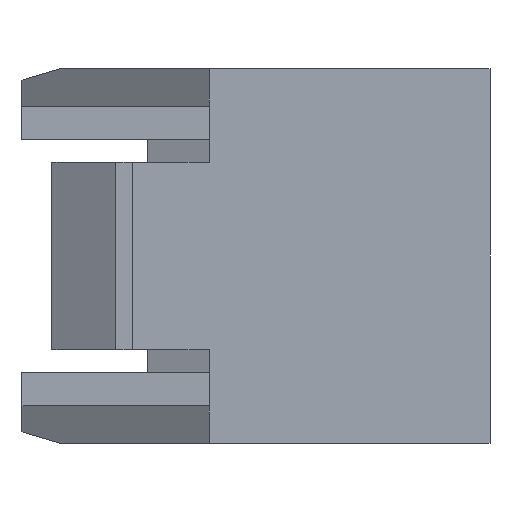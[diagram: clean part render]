
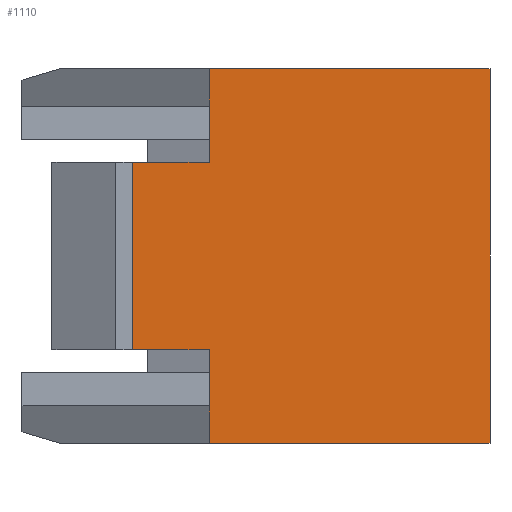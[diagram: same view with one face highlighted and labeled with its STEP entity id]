
A CAD part, front view. The second image highlights one B-rep face of the part: STEP entity #1110.
In plain terms, the highlighted planar face has unit normal (0, -1, 0).
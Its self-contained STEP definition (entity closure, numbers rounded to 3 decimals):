
#73 = PLANE('',#74);
#74 = AXIS2_PLACEMENT_3D('',#75,#76,#77);
#75 = CARTESIAN_POINT('',(0.,0.,10.));
#76 = DIRECTION('',(0.,0.,1.));
#77 = DIRECTION('',(1.,0.,-0.));
#105 = PLANE('',#106);
#106 = AXIS2_PLACEMENT_3D('',#107,#108,#109);
#107 = CARTESIAN_POINT('',(0.,0.,-10.));
#108 = DIRECTION('',(1.,0.,0.));
#109 = DIRECTION('',(-0.,1.,0.));
#132 = PLANE('',#133);
#133 = AXIS2_PLACEMENT_3D('',#134,#135,#136);
#134 = CARTESIAN_POINT('',(0.,20.719,0.));
#135 = DIRECTION('',(0.,0.,1.));
#136 = DIRECTION('',(0.,-1.,0.));
#206 = VERTEX_POINT('',#207);
#207 = CARTESIAN_POINT('',(-7.5,-0.05,0.));
#221 = PLANE('',#222);
#222 = AXIS2_PLACEMENT_3D('',#223,#224,#225);
#223 = CARTESIAN_POINT('',(-7.5,0.,0.));
#224 = DIRECTION('',(-1.,0.,0.));
#225 = DIRECTION('',(0.,1.,0.));
#233 = EDGE_CURVE('',#206,#234,#236,.T.);
#234 = VERTEX_POINT('',#235);
#235 = CARTESIAN_POINT('',(0.,-0.05,0.));
#236 = SURFACE_CURVE('',#237,(#241,#248),.PCURVE_S1.);
#237 = LINE('',#238,#239);
#238 = CARTESIAN_POINT('',(-7.5,-0.05,0.));
#239 = VECTOR('',#240,1.);
#240 = DIRECTION('',(1.,0.,0.));
#241 = PCURVE('',#132,#242);
#242 = DEFINITIONAL_REPRESENTATION('',(#243),#247);
#243 = LINE('',#244,#245);
#244 = CARTESIAN_POINT('',(20.769,-7.5));
#245 = VECTOR('',#246,1.);
#246 = DIRECTION('',(0.,1.));
#247 = ( GEOMETRIC_REPRESENTATION_CONTEXT(2) 
PARAMETRIC_REPRESENTATION_CONTEXT() REPRESENTATION_CONTEXT('2D SPACE',''
  ) );
#248 = PCURVE('',#249,#254);
#249 = PLANE('',#250);
#250 = AXIS2_PLACEMENT_3D('',#251,#252,#253);
#251 = CARTESIAN_POINT('',(-9.6,-0.05,-10.));
#252 = DIRECTION('',(0.,-1.,0.));
#253 = DIRECTION('',(1.,0.,0.));
#254 = DEFINITIONAL_REPRESENTATION('',(#255),#259);
#255 = LINE('',#256,#257);
#256 = CARTESIAN_POINT('',(2.1,10.));
#257 = VECTOR('',#258,1.);
#258 = DIRECTION('',(1.,0.));
#259 = ( GEOMETRIC_REPRESENTATION_CONTEXT(2) 
PARAMETRIC_REPRESENTATION_CONTEXT() REPRESENTATION_CONTEXT('2D SPACE',''
  ) );
#754 = VERTEX_POINT('',#755);
#755 = CARTESIAN_POINT('',(0.,-0.05,10.));
#776 = EDGE_CURVE('',#754,#777,#779,.T.);
#777 = VERTEX_POINT('',#778);
#778 = CARTESIAN_POINT('',(-7.5,-0.05,10.));
#779 = SURFACE_CURVE('',#780,(#784,#791),.PCURVE_S1.);
#780 = LINE('',#781,#782);
#781 = CARTESIAN_POINT('',(0.,-0.05,10.));
#782 = VECTOR('',#783,1.);
#783 = DIRECTION('',(-1.,0.,0.));
#784 = PCURVE('',#73,#785);
#785 = DEFINITIONAL_REPRESENTATION('',(#786),#790);
#786 = LINE('',#787,#788);
#787 = CARTESIAN_POINT('',(0.,-0.05));
#788 = VECTOR('',#789,1.);
#789 = DIRECTION('',(-1.,0.));
#790 = ( GEOMETRIC_REPRESENTATION_CONTEXT(2) 
PARAMETRIC_REPRESENTATION_CONTEXT() REPRESENTATION_CONTEXT('2D SPACE',''
  ) );
#791 = PCURVE('',#249,#792);
#792 = DEFINITIONAL_REPRESENTATION('',(#793),#797);
#793 = LINE('',#794,#795);
#794 = CARTESIAN_POINT('',(9.6,20.));
#795 = VECTOR('',#796,1.);
#796 = DIRECTION('',(-1.,0.));
#797 = ( GEOMETRIC_REPRESENTATION_CONTEXT(2) 
PARAMETRIC_REPRESENTATION_CONTEXT() REPRESENTATION_CONTEXT('2D SPACE',''
  ) );
#815 = PLANE('',#816);
#816 = AXIS2_PLACEMENT_3D('',#817,#818,#819);
#817 = CARTESIAN_POINT('',(-7.5,8.8,-10.));
#818 = DIRECTION('',(-1.,0.,0.));
#819 = DIRECTION('',(0.,-1.,0.));
#1010 = EDGE_CURVE('',#1011,#777,#1013,.T.);
#1011 = VERTEX_POINT('',#1012);
#1012 = CARTESIAN_POINT('',(-7.5,-0.05,7.5));
#1013 = SURFACE_CURVE('',#1014,(#1018,#1025),.PCURVE_S1.);
#1014 = LINE('',#1015,#1016);
#1015 = CARTESIAN_POINT('',(-7.5,-0.05,7.5));
#1016 = VECTOR('',#1017,1.);
#1017 = DIRECTION('',(0.,0.,1.));
#1018 = PCURVE('',#815,#1019);
#1019 = DEFINITIONAL_REPRESENTATION('',(#1020),#1024);
#1020 = LINE('',#1021,#1022);
#1021 = CARTESIAN_POINT('',(8.85,17.5));
#1022 = VECTOR('',#1023,1.);
#1023 = DIRECTION('',(0.,1.));
#1024 = ( GEOMETRIC_REPRESENTATION_CONTEXT(2) 
PARAMETRIC_REPRESENTATION_CONTEXT() REPRESENTATION_CONTEXT('2D SPACE',''
  ) );
#1025 = PCURVE('',#249,#1026);
#1026 = DEFINITIONAL_REPRESENTATION('',(#1027),#1031);
#1027 = LINE('',#1028,#1029);
#1028 = CARTESIAN_POINT('',(2.1,17.5));
#1029 = VECTOR('',#1030,1.);
#1030 = DIRECTION('',(0.,1.));
#1031 = ( GEOMETRIC_REPRESENTATION_CONTEXT(2) 
PARAMETRIC_REPRESENTATION_CONTEXT() REPRESENTATION_CONTEXT('2D SPACE',''
  ) );
#1049 = PLANE('',#1050);
#1050 = AXIS2_PLACEMENT_3D('',#1051,#1052,#1053);
#1051 = CARTESIAN_POINT('',(-7.5,1.,7.5));
#1052 = DIRECTION('',(0.,0.,-1.));
#1053 = DIRECTION('',(-1.,0.,0.));
#1110 = ADVANCED_FACE('',(#1111),#249,.T.);
#1111 = FACE_BOUND('',#1112,.F.);
#1112 = EDGE_LOOP('',(#1113,#1136,#1164,#1192,#1213,#1214,#1215,#1236));
#1113 = ORIENTED_EDGE('',*,*,#1114,.T.);
#1114 = EDGE_CURVE('',#206,#1115,#1117,.T.);
#1115 = VERTEX_POINT('',#1116);
#1116 = CARTESIAN_POINT('',(-7.5,-0.05,2.5));
#1117 = SURFACE_CURVE('',#1118,(#1122,#1129),.PCURVE_S1.);
#1118 = LINE('',#1119,#1120);
#1119 = CARTESIAN_POINT('',(-7.5,-0.05,0.));
#1120 = VECTOR('',#1121,1.);
#1121 = DIRECTION('',(0.,0.,1.));
#1122 = PCURVE('',#249,#1123);
#1123 = DEFINITIONAL_REPRESENTATION('',(#1124),#1128);
#1124 = LINE('',#1125,#1126);
#1125 = CARTESIAN_POINT('',(2.1,10.));
#1126 = VECTOR('',#1127,1.);
#1127 = DIRECTION('',(0.,1.));
#1128 = ( GEOMETRIC_REPRESENTATION_CONTEXT(2) 
PARAMETRIC_REPRESENTATION_CONTEXT() REPRESENTATION_CONTEXT('2D SPACE',''
  ) );
#1129 = PCURVE('',#221,#1130);
#1130 = DEFINITIONAL_REPRESENTATION('',(#1131),#1135);
#1131 = LINE('',#1132,#1133);
#1132 = CARTESIAN_POINT('',(-0.05,0.));
#1133 = VECTOR('',#1134,1.);
#1134 = DIRECTION('',(0.,-1.));
#1135 = ( GEOMETRIC_REPRESENTATION_CONTEXT(2) 
PARAMETRIC_REPRESENTATION_CONTEXT() REPRESENTATION_CONTEXT('2D SPACE',''
  ) );
#1136 = ORIENTED_EDGE('',*,*,#1137,.F.);
#1137 = EDGE_CURVE('',#1138,#1115,#1140,.T.);
#1138 = VERTEX_POINT('',#1139);
#1139 = CARTESIAN_POINT('',(-9.55,-0.05,2.5));
#1140 = SURFACE_CURVE('',#1141,(#1145,#1152),.PCURVE_S1.);
#1141 = LINE('',#1142,#1143);
#1142 = CARTESIAN_POINT('',(-9.55,-0.05,2.5));
#1143 = VECTOR('',#1144,1.);
#1144 = DIRECTION('',(1.,0.,0.));
#1145 = PCURVE('',#249,#1146);
#1146 = DEFINITIONAL_REPRESENTATION('',(#1147),#1151);
#1147 = LINE('',#1148,#1149);
#1148 = CARTESIAN_POINT('',(0.05,12.5));
#1149 = VECTOR('',#1150,1.);
#1150 = DIRECTION('',(1.,0.));
#1151 = ( GEOMETRIC_REPRESENTATION_CONTEXT(2) 
PARAMETRIC_REPRESENTATION_CONTEXT() REPRESENTATION_CONTEXT('2D SPACE',''
  ) );
#1152 = PCURVE('',#1153,#1158);
#1153 = PLANE('',#1154);
#1154 = AXIS2_PLACEMENT_3D('',#1155,#1156,#1157);
#1155 = CARTESIAN_POINT('',(-11.7,-2.265,2.5));
#1156 = DIRECTION('',(0.,0.,1.));
#1157 = DIRECTION('',(0.,1.,0.));
#1158 = DEFINITIONAL_REPRESENTATION('',(#1159),#1163);
#1159 = LINE('',#1160,#1161);
#1160 = CARTESIAN_POINT('',(2.215,-2.15));
#1161 = VECTOR('',#1162,1.);
#1162 = DIRECTION('',(0.,-1.));
#1163 = ( GEOMETRIC_REPRESENTATION_CONTEXT(2) 
PARAMETRIC_REPRESENTATION_CONTEXT() REPRESENTATION_CONTEXT('2D SPACE',''
  ) );
#1164 = ORIENTED_EDGE('',*,*,#1165,.F.);
#1165 = EDGE_CURVE('',#1166,#1138,#1168,.T.);
#1166 = VERTEX_POINT('',#1167);
#1167 = CARTESIAN_POINT('',(-9.55,-0.05,7.5));
#1168 = SURFACE_CURVE('',#1169,(#1173,#1180),.PCURVE_S1.);
#1169 = LINE('',#1170,#1171);
#1170 = CARTESIAN_POINT('',(-9.55,-0.05,7.5));
#1171 = VECTOR('',#1172,1.);
#1172 = DIRECTION('',(0.,0.,-1.));
#1173 = PCURVE('',#249,#1174);
#1174 = DEFINITIONAL_REPRESENTATION('',(#1175),#1179);
#1175 = LINE('',#1176,#1177);
#1176 = CARTESIAN_POINT('',(0.05,17.5));
#1177 = VECTOR('',#1178,1.);
#1178 = DIRECTION('',(0.,-1.));
#1179 = ( GEOMETRIC_REPRESENTATION_CONTEXT(2) 
PARAMETRIC_REPRESENTATION_CONTEXT() REPRESENTATION_CONTEXT('2D SPACE',''
  ) );
#1180 = PCURVE('',#1181,#1186);
#1181 = PLANE('',#1182);
#1182 = AXIS2_PLACEMENT_3D('',#1183,#1184,#1185);
#1183 = CARTESIAN_POINT('',(-9.55,-1.,-10.));
#1184 = DIRECTION('',(1.,0.,0.));
#1185 = DIRECTION('',(-0.,1.,0.));
#1186 = DEFINITIONAL_REPRESENTATION('',(#1187),#1191);
#1187 = LINE('',#1188,#1189);
#1188 = CARTESIAN_POINT('',(0.95,17.5));
#1189 = VECTOR('',#1190,1.);
#1190 = DIRECTION('',(0.,-1.));
#1191 = ( GEOMETRIC_REPRESENTATION_CONTEXT(2) 
PARAMETRIC_REPRESENTATION_CONTEXT() REPRESENTATION_CONTEXT('2D SPACE',''
  ) );
#1192 = ORIENTED_EDGE('',*,*,#1193,.F.);
#1193 = EDGE_CURVE('',#1011,#1166,#1194,.T.);
#1194 = SURFACE_CURVE('',#1195,(#1199,#1206),.PCURVE_S1.);
#1195 = LINE('',#1196,#1197);
#1196 = CARTESIAN_POINT('',(-7.5,-0.05,7.5));
#1197 = VECTOR('',#1198,1.);
#1198 = DIRECTION('',(-1.,0.,0.));
#1199 = PCURVE('',#249,#1200);
#1200 = DEFINITIONAL_REPRESENTATION('',(#1201),#1205);
#1201 = LINE('',#1202,#1203);
#1202 = CARTESIAN_POINT('',(2.1,17.5));
#1203 = VECTOR('',#1204,1.);
#1204 = DIRECTION('',(-1.,0.));
#1205 = ( GEOMETRIC_REPRESENTATION_CONTEXT(2) 
PARAMETRIC_REPRESENTATION_CONTEXT() REPRESENTATION_CONTEXT('2D SPACE',''
  ) );
#1206 = PCURVE('',#1049,#1207);
#1207 = DEFINITIONAL_REPRESENTATION('',(#1208),#1212);
#1208 = LINE('',#1209,#1210);
#1209 = CARTESIAN_POINT('',(0.,-1.05));
#1210 = VECTOR('',#1211,1.);
#1211 = DIRECTION('',(1.,0.));
#1212 = ( GEOMETRIC_REPRESENTATION_CONTEXT(2) 
PARAMETRIC_REPRESENTATION_CONTEXT() REPRESENTATION_CONTEXT('2D SPACE',''
  ) );
#1213 = ORIENTED_EDGE('',*,*,#1010,.T.);
#1214 = ORIENTED_EDGE('',*,*,#776,.F.);
#1215 = ORIENTED_EDGE('',*,*,#1216,.T.);
#1216 = EDGE_CURVE('',#754,#234,#1217,.T.);
#1217 = SURFACE_CURVE('',#1218,(#1222,#1229),.PCURVE_S1.);
#1218 = LINE('',#1219,#1220);
#1219 = CARTESIAN_POINT('',(0.,-0.05,10.));
#1220 = VECTOR('',#1221,1.);
#1221 = DIRECTION('',(0.,0.,-1.));
#1222 = PCURVE('',#249,#1223);
#1223 = DEFINITIONAL_REPRESENTATION('',(#1224),#1228);
#1224 = LINE('',#1225,#1226);
#1225 = CARTESIAN_POINT('',(9.6,20.));
#1226 = VECTOR('',#1227,1.);
#1227 = DIRECTION('',(0.,-1.));
#1228 = ( GEOMETRIC_REPRESENTATION_CONTEXT(2) 
PARAMETRIC_REPRESENTATION_CONTEXT() REPRESENTATION_CONTEXT('2D SPACE',''
  ) );
#1229 = PCURVE('',#105,#1230);
#1230 = DEFINITIONAL_REPRESENTATION('',(#1231),#1235);
#1231 = LINE('',#1232,#1233);
#1232 = CARTESIAN_POINT('',(-0.05,20.));
#1233 = VECTOR('',#1234,1.);
#1234 = DIRECTION('',(0.,-1.));
#1235 = ( GEOMETRIC_REPRESENTATION_CONTEXT(2) 
PARAMETRIC_REPRESENTATION_CONTEXT() REPRESENTATION_CONTEXT('2D SPACE',''
  ) );
#1236 = ORIENTED_EDGE('',*,*,#233,.F.);
